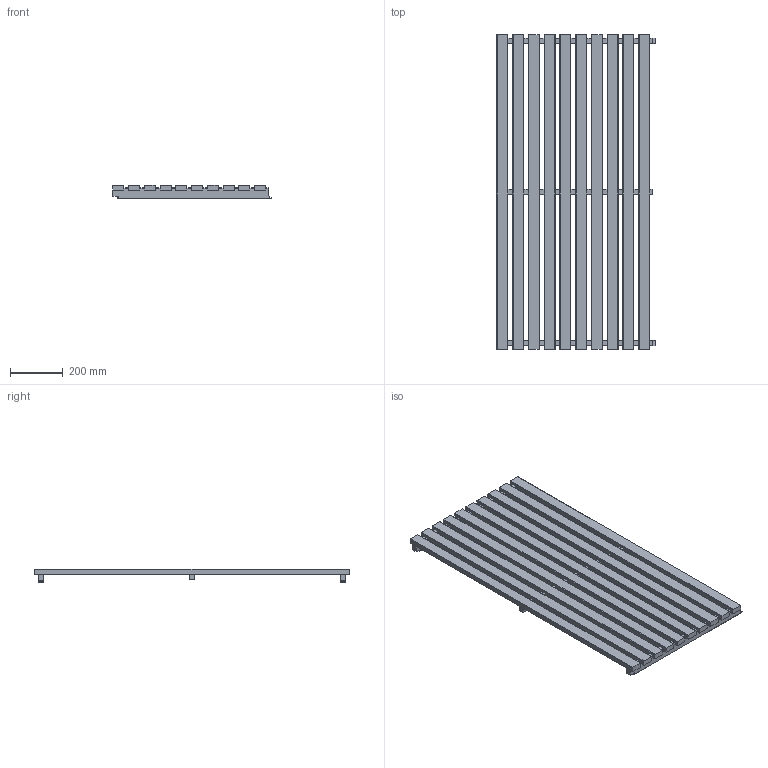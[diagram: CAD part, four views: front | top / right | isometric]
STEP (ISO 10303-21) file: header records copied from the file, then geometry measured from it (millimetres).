
FILE_DESCRIPTION (( 'STEP AP214' ), '1' );
FILE_NAME ('Lao 4.2.1.STEP', '2024-05-31T09:16:21', ( 'UTILISATEUR' ), ( '' ), 'SwSTEP 2.0', 'SolidWorks 2021', '' );
FILE_SCHEMA (( 'AUTOMOTIVE_DESIGN' ));
Length unit declared in the file: millimetre
Products named in the file (4): Contrelatte centrale 20x28_4.2.1; Lame aboutée 20x42x1199mm_1199; Contrelatte 20x42_4.2.1; Lao 4.2.1
Assembly tree (13 placements, depth 2):
  Lao 4.2.1
    Contrelatte 20x42_4.2.1  x2
    Lame aboutée 20x42x1199mm_1199  x10
    Contrelatte centrale 20x28_4.2.1
Bounding box: 603 x 1199 x 52 mm (x, y, z)
Volume: 11085789.5 mm3; surface area: 1656478.8 mm2
Topology: 13 solids, 13 shells, 342 faces, 948 edges, 632 vertices
Faces by surface type: plane 318, cylinder 24
Entity records: 5926 total; most frequent: CARTESIAN_POINT 1042, ORIENTED_EDGE 1008, DIRECTION 924, EDGE_CURVE 504, VECTOR 456, LINE 456, VERTEX_POINT 336, AXIS2_PLACEMENT_3D 234
